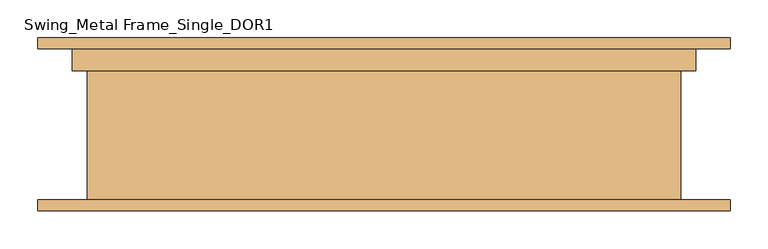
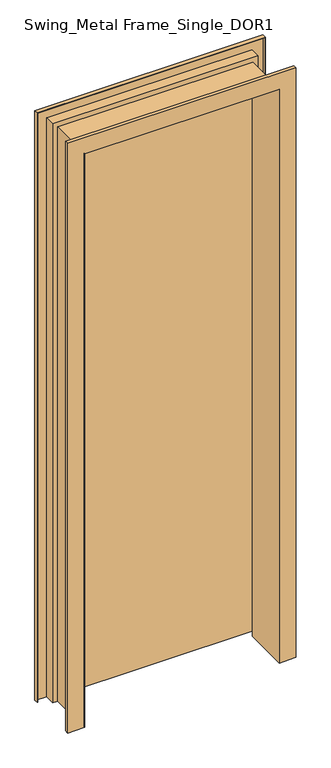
"""IFC4 building model written with IfcOpenShell, lengths in millimetres: door geometry, Swing_Metal Frame_Single_DOR1 : 2040h x 820 (2110x920 STUD)."""

import ifcopenshell
import ifcopenshell.guid

model = None  # the IFC model being written
_history = None  # IfcOwnerHistory: only IFC2X3 demands one
_inside = {}  # id of a spatial element -> (the spatial element, [elements in it])
_under = {}  # id of a project, library or spatial element -> (it, [spatial elements below it])
_declared = {}  # id of a project -> (the project, [libraries it declares])
_typed = {}  # id of a type object -> (the type object, [elements of that type])
_made_of = {}  # id of a material, layer set ... -> (it, [elements and type objects made of it])


def new_model(schema):
    """Start an empty IFC model of exactly this schema.

    Asked for "IFC4X3", IfcOpenShell would pick the latest addendum, in which some entities
    have other attributes; the version numbers below select the first issue.
    IFC2X3 requires an IfcOwnerHistory on every rooted entity: one is made here for all.
    """
    global model, _history
    if schema == "IFC4X3":
        model = ifcopenshell.file(schema_version=(4, 3, 0, 0))
    else:
        model = ifcopenshell.file(schema=schema)
    _inside.clear()
    _under.clear()
    _declared.clear()
    _typed.clear()
    _made_of.clear()
    _history = None
    if model.schema == "IFC2X3":
        org = make("IfcOrganization", Name="unknown")
        user = make(
            "IfcPersonAndOrganization",
            ThePerson=make("IfcPerson", FamilyName="unknown"),
            TheOrganization=org,
        )
        app = make(
            "IfcApplication",
            ApplicationDeveloper=org,
            Version="unknown",
            ApplicationFullName="unknown",
            ApplicationIdentifier="unknown",
        )
        _history = make(
            "IfcOwnerHistory",
            OwningUser=user,
            OwningApplication=app,
            ChangeAction="ADDED",
            CreationDate=0,
        )
    return model


def make(cls, **values):
    """One entity of the class cls with the attributes given. An attribute that is None is left unset."""
    return model.create_entity(
        cls, **{name: value for name, value in values.items() if value is not None}
    )


def rooted(cls, **values):
    """An entity with a GlobalId (a new one), such as an element, a storey or a relation."""
    return make(cls, GlobalId=ifcopenshell.guid.new(), OwnerHistory=_history, **values)


def si_unit(unit_type, name, prefix=None):
    """IfcSIUnit, for example si_unit("LENGTHUNIT", "METRE", prefix="MILLI")."""
    return make("IfcSIUnit", UnitType=unit_type, Prefix=prefix, Name=name)


def assignment(units):
    """IfcUnitAssignment: the units of a project."""
    return None if units is None else make("IfcUnitAssignment", Units=units)


def point(xyz):
    """IfcCartesianPoint."""
    return None if xyz is None else make("IfcCartesianPoint", Coordinates=xyz)


def direction(xyz):
    """IfcDirection."""
    return None if xyz is None else make("IfcDirection", DirectionRatios=xyz)


def frame(location, z_axis=None, x_axis=None):
    """IfcAxis2Placement3D, a coordinate frame: its origin and axes. An axis left out is left unset."""
    return make(
        "IfcAxis2Placement3D",
        Location=point(location),
        Axis=direction(z_axis),
        RefDirection=direction(x_axis),
    )


def origin():
    """The frame at (0, 0, 0) with its axes left unset."""
    return frame((0.0, 0.0, 0.0))


def place(relative_to, where):
    """IfcLocalPlacement: puts the frame where relative to a parent placement (None: the world)."""
    return make(
        "IfcLocalPlacement", PlacementRelTo=relative_to, RelativePlacement=where
    )


def context(
    kind, dimensions, precision=None, world=None, true_north=None, identifier=None
):
    """IfcGeometricRepresentationContext, for example the 3D "Model" context."""
    return make(
        "IfcGeometricRepresentationContext",
        ContextIdentifier=identifier,
        ContextType=kind,
        CoordinateSpaceDimension=dimensions,
        Precision=precision,
        WorldCoordinateSystem=world,
        TrueNorth=true_north,
    )


def project(units=None, contexts=None):
    """IfcProject with its units and contexts."""
    return rooted(
        "IfcProject",
        Name="project",
        RepresentationContexts=contexts,
        UnitsInContext=assignment(units),
    )


def spatial(cls, under=None, at=None, **own):
    """A site, building, storey or space (cls), placed at a placement, below another one or the project."""
    s = rooted(cls, ObjectPlacement=at, **own)
    if under is not None:
        _under.setdefault(under.id(), (under, []))[1].append(s)
    return s


def polyline(points):
    """IfcPolyline through the points."""
    return make("IfcPolyline", Points=[point(p) for p in points])


def outline(outer, holes=None, kind="AREA"):
    """IfcArbitraryClosedProfileDef: a profile drawn as a closed curve; with holes, ...WithVoids."""
    if holes is None:
        return make("IfcArbitraryClosedProfileDef", ProfileType=kind, OuterCurve=outer)
    return make(
        "IfcArbitraryProfileDefWithVoids",
        ProfileType=kind,
        OuterCurve=outer,
        InnerCurves=holes,
    )


def extrude(swept, where, along, depth):
    """IfcExtrudedAreaSolid: the profile swept, set in the frame where, extruded along a direction by depth."""
    return make(
        "IfcExtrudedAreaSolid",
        SweptArea=swept,
        Position=where,
        ExtrudedDirection=direction(along),
        Depth=depth,
    )


def faces_of(points, faces, orient=None, outer=None):
    """IfcFace entities. A face is a list of loops; a loop is a list of indices into points, from 0.

    orient and outer hold one flag for each loop. By default every Orientation is true, the
    first loop of a face is its IfcFaceOuterBound and the others are IfcFaceBound.
    """
    made = []
    for i, loops in enumerate(faces):
        bounds = []
        for j, loop in enumerate(loops):
            is_outer = j == 0 if outer is None else outer[i][j]
            bounds.append(
                make(
                    "IfcFaceOuterBound" if is_outer else "IfcFaceBound",
                    Bound=make("IfcPolyLoop", Polygon=[points[k] for k in loop]),
                    Orientation=True if orient is None else orient[i][j],
                )
            )
        made.append(make("IfcFace", Bounds=bounds))
    return made


def faceted_brep(points, faces, orient=None, outer=None, voids=None):
    """IfcFacetedBrep: a solid bounded by flat faces; with voids (closed shells), ...WithVoids."""
    shared = [point(p) for p in points]
    hull = make("IfcClosedShell", CfsFaces=faces_of(shared, faces, orient, outer))
    if voids is None:
        return make("IfcFacetedBrep", Outer=hull)
    return make(
        "IfcFacetedBrepWithVoids",
        Outer=hull,
        Voids=[
            make(cls, CfsFaces=faces_of(shared, fs, o, b)) for cls, fs, o, b in voids
        ],
    )


def shape(context_of_items, identifier, shape_type, items):
    """IfcShapeRepresentation: the items that make up one representation, for example the "Body"."""
    return make(
        "IfcShapeRepresentation",
        ContextOfItems=context_of_items,
        RepresentationIdentifier=identifier,
        RepresentationType=shape_type,
        Items=items,
    )


def source(mapping_origin, context_of_items, identifier, shape_type, items):
    """IfcRepresentationMap: a shape defined once, which mapped items show again and again."""
    return make(
        "IfcRepresentationMap",
        MappingOrigin=mapping_origin,
        MappedRepresentation=shape(context_of_items, identifier, shape_type, items),
    )


def transform(
    local_origin,
    x_axis=None,
    y_axis=None,
    z_axis=None,
    scale=None,
    scale2=None,
    scale3=None,
    uniform=True,
):
    """IfcCartesianTransformationOperator3D, or its non-uniform kind. x_axis, y_axis, z_axis: its Axis1, 2, 3."""
    if uniform:
        return make(
            "IfcCartesianTransformationOperator3D",
            Axis1=direction(x_axis),
            Axis2=direction(y_axis),
            LocalOrigin=point(local_origin),
            Scale=scale,
            Axis3=direction(z_axis),
        )
    return make(
        "IfcCartesianTransformationOperator3DnonUniform",
        Axis1=direction(x_axis),
        Axis2=direction(y_axis),
        LocalOrigin=point(local_origin),
        Scale=scale,
        Axis3=direction(z_axis),
        Scale2=scale2,
        Scale3=scale3,
    )


def mapped(mapping_source, mapping_target):
    """IfcMappedItem: shows the shape of a source again, moved by a transform."""
    return make(
        "IfcMappedItem", MappingSource=mapping_source, MappingTarget=mapping_target
    )


def made_of(thing, what):
    """Note that an element or type object is made of a material, layer set ...; save() writes the relation."""
    if what is not None:
        _made_of.setdefault(what.id(), (what, []))[1].append(thing)
    return thing


def element(
    cls,
    number,
    at=None,
    inside=None,
    cuts=None,
    type_object=None,
    material=None,
    context=None,
    identifier="Body",
    shape_type=None,
    held_by="IfcProductDefinitionShape",
    body=None,
    shapes=None,
    **own,
):
    """One element of the class cls, such as IfcWall. Its Tag is "e" and its number.

    at: its placement. inside: the storey or other place that contains it. cuts: it is an
    opening in that element (IfcRelVoidsElement). A single representation is given by context,
    identifier, shape_type and body (its items); several are given by shapes. held_by: the class
    of the entity that holds the representations. save() writes the other relations.
    """
    e = rooted(cls, Tag="e%d" % number, ObjectPlacement=at, **own)
    if body is not None:
        shapes = [shape(context, identifier, shape_type, body)]
    if shapes is not None:
        e.Representation = make(held_by, Representations=shapes)
    if inside is not None:
        _inside.setdefault(inside.id(), (inside, []))[1].append(e)
    if cuts is not None:
        rooted(
            "IfcRelVoidsElement", RelatingBuildingElement=cuts, RelatedOpeningElement=e
        )
    if type_object is not None:
        _typed.setdefault(type_object.id(), (type_object, []))[1].append(e)
    return made_of(e, material)


def aggregate(whole, parts):
    """IfcRelAggregates: a whole, such as a stair, and the parts it consists of."""
    return rooted("IfcRelAggregates", RelatingObject=whole, RelatedObjects=parts)


def save(model, path):
    """Write the relations noted so far, then the file.

    IfcRelAggregates (storeys below a building ...), IfcRelContainedInSpatialStructure (elements
    in a storey), IfcRelDefinesByType, IfcRelAssociatesMaterial and IfcRelDeclares: one each for
    every whole, place, type object, material and project.
    """
    for whole, parts in _under.values():
        aggregate(whole, parts)
    for where, things in _inside.values():
        rooted(
            "IfcRelContainedInSpatialStructure",
            RelatedElements=things,
            RelatingStructure=where,
        )
    for kind, things in _typed.values():
        rooted("IfcRelDefinesByType", RelatedObjects=things, RelatingType=kind)
    for what, things in _made_of.values():
        rooted("IfcRelAssociatesMaterial", RelatedObjects=things, RelatingMaterial=what)
    for by, libraries in _declared.values():
        rooted("IfcRelDeclares", RelatingContext=by, RelatedDefinitions=libraries)
    model.write(path)


def swing_metal_frame_single_dor1_8b558513(model_context):
    return source(origin(), model_context, "Body", "SolidModel", [
        extrude(outline(polyline([(410.0, 115.0), (410.0, 75.0), (-410.0, 75.0), (-410.0, 115.0), (410.0, 115.0)])), frame((0.0, 0.0, 20.0), z_axis=(0.0, 0.0, 1.0), x_axis=(1.0, 0.0, 0.0)), (0.0, 0.0, 1.0), 2440.0),
        faceted_brep([(-460.0, -115.0, 0.0), (-460.0, -100.0, 0.0), (-458.0, -100.0, 0.0), (-458.0, -113.0, 0.0), (-394.0, -113.0, 0.0), (-394.0, 71.0, 0.0), (-414.0, 71.0, 0.0), (-414.0, 113.0, 0.0), (-458.0, 113.0, 0.0), (-458.0, 100.0, 0.0), (-460.0, 100.0, 0.0), (-460.0, 115.0, 0.0), (-412.0, 115.0, 0.0), (-412.0, 73.0, 0.0), (-392.0, 73.0, 0.0), (-392.0, -115.0, 0.0), (-460.0, -115.0, 2510.0), (-460.0, -100.0, 2510.0), (460.0, -100.0, 2510.0), (460.0, -100.0, 0.0), (458.0, -100.0, 0.0), (458.0, -100.0, 2508.0), (-458.0, -100.0, 2508.0), (-458.0, -113.0, 2508.0), (458.0, -113.0, 2508.0), (458.0, -113.0, 0.0), (394.0, -113.0, 0.0), (394.0, -113.0, 2444.0), (-394.0, -113.0, 2444.0), (-394.0, 71.0, 2444.0), (394.0, 71.0, 2444.0), (394.0, 71.0, 0.0), (414.0, 71.0, 0.0), (414.0, 71.0, 2464.0), (-414.0, 71.0, 2464.0), (-414.0, 113.0, 2464.0), (414.0, 113.0, 2464.0), (414.0, 113.0, 0.0), (458.0, 113.0, 0.0), (458.0, 113.0, 2508.0), (-458.0, 113.0, 2508.0), (-458.0, 100.0, 2508.0), (458.0, 100.0, 2508.0), (458.0, 100.0, 0.0), (460.0, 100.0, 0.0), (460.0, 100.0, 2510.0), (-460.0, 100.0, 2510.0), (-460.0, 115.0, 2510.0), (460.0, 115.0, 2510.0), (460.0, 115.0, 0.0), (412.0, 115.0, 0.0), (412.0, 115.0, 2462.0), (-412.0, 115.0, 2462.0), (-412.0, 73.0, 2462.0), (412.0, 73.0, 2462.0), (412.0, 73.0, 0.0), (392.0, 73.0, 0.0), (392.0, 73.0, 2442.0), (-392.0, 73.0, 2442.0), (-392.0, -115.0, 2442.0), (392.0, -115.0, 2442.0), (392.0, -115.0, 0.0), (460.0, -115.0, 0.0), (460.0, -115.0, 2510.0)], [[[0, 1, 2, 3, 4, 5, 6, 7, 8, 9, 10, 11, 12, 13, 14, 15]], [[1, 0, 16, 17]], [[2, 1, 17, 18, 19, 20, 21, 22]], [[3, 2, 22, 23]], [[4, 3, 23, 24, 25, 26, 27, 28]], [[5, 4, 28, 29]], [[6, 5, 29, 30, 31, 32, 33, 34]], [[7, 6, 34, 35]], [[8, 7, 35, 36, 37, 38, 39, 40]], [[9, 8, 40, 41]], [[10, 9, 41, 42, 43, 44, 45, 46]], [[11, 10, 46, 47]], [[12, 11, 47, 48, 49, 50, 51, 52]], [[13, 12, 52, 53]], [[14, 13, 53, 54, 55, 56, 57, 58]], [[15, 14, 58, 59]], [[0, 15, 59, 60, 61, 62, 63, 16]], [[18, 63, 62, 19]], [[62, 61, 56, 55, 50, 49, 44, 43, 38, 37, 32, 31, 26, 25, 20, 19]], [[24, 21, 20, 25]], [[30, 27, 26, 31]], [[36, 33, 32, 37]], [[42, 39, 38, 43]], [[48, 45, 44, 49]], [[54, 51, 50, 55]], [[60, 57, 56, 61]], [[17, 16, 63, 18]], [[23, 22, 21, 24]], [[29, 28, 27, 30]], [[35, 34, 33, 36]], [[41, 40, 39, 42]], [[47, 46, 45, 48]], [[53, 52, 51, 54]], [[59, 58, 57, 60]]]),
    ])


if __name__ == "__main__":
    model = new_model("IFC4")
    model_context = context("Model", 3, world=origin())
    ifc_project = project(units=[si_unit("LENGTHUNIT", "METRE", prefix="MILLI")], contexts=[model_context])
    site = spatial("IfcSite", under=ifc_project)
    building = spatial("IfcBuilding", under=site)
    placement = place(None, origin())
    swing_metal_frame_single_dor1_shape = swing_metal_frame_single_dor1_8b558513(model_context)
    element("IfcDoor", 1, ObjectType="Swing_Metal Frame_Single_DOR1 : 2040h x 820 (2110x920 STUD)", at=placement, inside=building, context=model_context, shape_type="MappedRepresentation", body=[
        mapped(swing_metal_frame_single_dor1_shape, transform((0.0, 0.0, 0.0), x_axis=(1.0, 0.0, 0.0), y_axis=(0.0, 1.0, 0.0), z_axis=(0.0, 0.0, 1.0))),
    ])
    save(model, "model.ifc")
